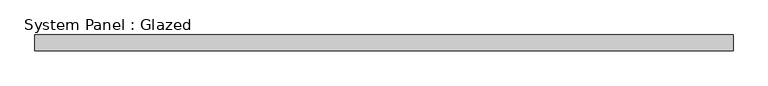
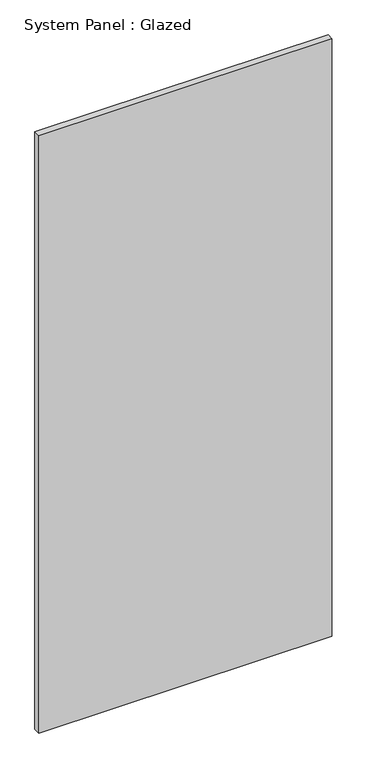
"""IFC4 building model written with IfcOpenShell, lengths in millimetres: plate geometry, System Panel : Glazed."""

import ifcopenshell
import ifcopenshell.guid

model = None  # the IFC model being written
_history = None  # IfcOwnerHistory: only IFC2X3 demands one
_inside = {}  # id of a spatial element -> (the spatial element, [elements in it])
_under = {}  # id of a project, library or spatial element -> (it, [spatial elements below it])
_declared = {}  # id of a project -> (the project, [libraries it declares])
_typed = {}  # id of a type object -> (the type object, [elements of that type])
_made_of = {}  # id of a material, layer set ... -> (it, [elements and type objects made of it])


def new_model(schema):
    """Start an empty IFC model of exactly this schema.

    Asked for "IFC4X3", IfcOpenShell would pick the latest addendum, in which some entities
    have other attributes; the version numbers below select the first issue.
    IFC2X3 requires an IfcOwnerHistory on every rooted entity: one is made here for all.
    """
    global model, _history
    if schema == "IFC4X3":
        model = ifcopenshell.file(schema_version=(4, 3, 0, 0))
    else:
        model = ifcopenshell.file(schema=schema)
    _inside.clear()
    _under.clear()
    _declared.clear()
    _typed.clear()
    _made_of.clear()
    _history = None
    if model.schema == "IFC2X3":
        org = make("IfcOrganization", Name="unknown")
        user = make(
            "IfcPersonAndOrganization",
            ThePerson=make("IfcPerson", FamilyName="unknown"),
            TheOrganization=org,
        )
        app = make(
            "IfcApplication",
            ApplicationDeveloper=org,
            Version="unknown",
            ApplicationFullName="unknown",
            ApplicationIdentifier="unknown",
        )
        _history = make(
            "IfcOwnerHistory",
            OwningUser=user,
            OwningApplication=app,
            ChangeAction="ADDED",
            CreationDate=0,
        )
    return model


def make(cls, **values):
    """One entity of the class cls with the attributes given. An attribute that is None is left unset."""
    return model.create_entity(
        cls, **{name: value for name, value in values.items() if value is not None}
    )


def rooted(cls, **values):
    """An entity with a GlobalId (a new one), such as an element, a storey or a relation."""
    return make(cls, GlobalId=ifcopenshell.guid.new(), OwnerHistory=_history, **values)


def si_unit(unit_type, name, prefix=None):
    """IfcSIUnit, for example si_unit("LENGTHUNIT", "METRE", prefix="MILLI")."""
    return make("IfcSIUnit", UnitType=unit_type, Prefix=prefix, Name=name)


def assignment(units):
    """IfcUnitAssignment: the units of a project."""
    return None if units is None else make("IfcUnitAssignment", Units=units)


def point(xyz):
    """IfcCartesianPoint."""
    return None if xyz is None else make("IfcCartesianPoint", Coordinates=xyz)


def direction(xyz):
    """IfcDirection."""
    return None if xyz is None else make("IfcDirection", DirectionRatios=xyz)


def frame(location, z_axis=None, x_axis=None):
    """IfcAxis2Placement3D, a coordinate frame: its origin and axes. An axis left out is left unset."""
    return make(
        "IfcAxis2Placement3D",
        Location=point(location),
        Axis=direction(z_axis),
        RefDirection=direction(x_axis),
    )


def origin():
    """The frame at (0, 0, 0) with its axes left unset."""
    return frame((0.0, 0.0, 0.0))


def origin_with_axes():
    """The frame at (0, 0, 0) with the z axis (0, 0, 1) and the x axis (1, 0, 0) written out."""
    return frame((0.0, 0.0, 0.0), z_axis=(0.0, 0.0, 1.0), x_axis=(1.0, 0.0, 0.0))


def place(relative_to, where):
    """IfcLocalPlacement: puts the frame where relative to a parent placement (None: the world)."""
    return make(
        "IfcLocalPlacement", PlacementRelTo=relative_to, RelativePlacement=where
    )


def context(
    kind, dimensions, precision=None, world=None, true_north=None, identifier=None
):
    """IfcGeometricRepresentationContext, for example the 3D "Model" context."""
    return make(
        "IfcGeometricRepresentationContext",
        ContextIdentifier=identifier,
        ContextType=kind,
        CoordinateSpaceDimension=dimensions,
        Precision=precision,
        WorldCoordinateSystem=world,
        TrueNorth=true_north,
    )


def project(units=None, contexts=None):
    """IfcProject with its units and contexts."""
    return rooted(
        "IfcProject",
        Name="project",
        RepresentationContexts=contexts,
        UnitsInContext=assignment(units),
    )


def spatial(cls, under=None, at=None, **own):
    """A site, building, storey or space (cls), placed at a placement, below another one or the project."""
    s = rooted(cls, ObjectPlacement=at, **own)
    if under is not None:
        _under.setdefault(under.id(), (under, []))[1].append(s)
    return s


def polyline(points):
    """IfcPolyline through the points."""
    return make("IfcPolyline", Points=[point(p) for p in points])


def outline(outer, holes=None, kind="AREA"):
    """IfcArbitraryClosedProfileDef: a profile drawn as a closed curve; with holes, ...WithVoids."""
    if holes is None:
        return make("IfcArbitraryClosedProfileDef", ProfileType=kind, OuterCurve=outer)
    return make(
        "IfcArbitraryProfileDefWithVoids",
        ProfileType=kind,
        OuterCurve=outer,
        InnerCurves=holes,
    )


def extrude(swept, where, along, depth):
    """IfcExtrudedAreaSolid: the profile swept, set in the frame where, extruded along a direction by depth."""
    return make(
        "IfcExtrudedAreaSolid",
        SweptArea=swept,
        Position=where,
        ExtrudedDirection=direction(along),
        Depth=depth,
    )


def shape(context_of_items, identifier, shape_type, items):
    """IfcShapeRepresentation: the items that make up one representation, for example the "Body"."""
    return make(
        "IfcShapeRepresentation",
        ContextOfItems=context_of_items,
        RepresentationIdentifier=identifier,
        RepresentationType=shape_type,
        Items=items,
    )


def source(mapping_origin, context_of_items, identifier, shape_type, items):
    """IfcRepresentationMap: a shape defined once, which mapped items show again and again."""
    return make(
        "IfcRepresentationMap",
        MappingOrigin=mapping_origin,
        MappedRepresentation=shape(context_of_items, identifier, shape_type, items),
    )


def transform(
    local_origin,
    x_axis=None,
    y_axis=None,
    z_axis=None,
    scale=None,
    scale2=None,
    scale3=None,
    uniform=True,
):
    """IfcCartesianTransformationOperator3D, or its non-uniform kind. x_axis, y_axis, z_axis: its Axis1, 2, 3."""
    if uniform:
        return make(
            "IfcCartesianTransformationOperator3D",
            Axis1=direction(x_axis),
            Axis2=direction(y_axis),
            LocalOrigin=point(local_origin),
            Scale=scale,
            Axis3=direction(z_axis),
        )
    return make(
        "IfcCartesianTransformationOperator3DnonUniform",
        Axis1=direction(x_axis),
        Axis2=direction(y_axis),
        LocalOrigin=point(local_origin),
        Scale=scale,
        Axis3=direction(z_axis),
        Scale2=scale2,
        Scale3=scale3,
    )


def mapped(mapping_source, mapping_target):
    """IfcMappedItem: shows the shape of a source again, moved by a transform."""
    return make(
        "IfcMappedItem", MappingSource=mapping_source, MappingTarget=mapping_target
    )


def made_of(thing, what):
    """Note that an element or type object is made of a material, layer set ...; save() writes the relation."""
    if what is not None:
        _made_of.setdefault(what.id(), (what, []))[1].append(thing)
    return thing


def element(
    cls,
    number,
    at=None,
    inside=None,
    cuts=None,
    type_object=None,
    material=None,
    context=None,
    identifier="Body",
    shape_type=None,
    held_by="IfcProductDefinitionShape",
    body=None,
    shapes=None,
    **own,
):
    """One element of the class cls, such as IfcWall. Its Tag is "e" and its number.

    at: its placement. inside: the storey or other place that contains it. cuts: it is an
    opening in that element (IfcRelVoidsElement). A single representation is given by context,
    identifier, shape_type and body (its items); several are given by shapes. held_by: the class
    of the entity that holds the representations. save() writes the other relations.
    """
    e = rooted(cls, Tag="e%d" % number, ObjectPlacement=at, **own)
    if body is not None:
        shapes = [shape(context, identifier, shape_type, body)]
    if shapes is not None:
        e.Representation = make(held_by, Representations=shapes)
    if inside is not None:
        _inside.setdefault(inside.id(), (inside, []))[1].append(e)
    if cuts is not None:
        rooted(
            "IfcRelVoidsElement", RelatingBuildingElement=cuts, RelatedOpeningElement=e
        )
    if type_object is not None:
        _typed.setdefault(type_object.id(), (type_object, []))[1].append(e)
    return made_of(e, material)


def aggregate(whole, parts):
    """IfcRelAggregates: a whole, such as a stair, and the parts it consists of."""
    return rooted("IfcRelAggregates", RelatingObject=whole, RelatedObjects=parts)


def save(model, path):
    """Write the relations noted so far, then the file.

    IfcRelAggregates (storeys below a building ...), IfcRelContainedInSpatialStructure (elements
    in a storey), IfcRelDefinesByType, IfcRelAssociatesMaterial and IfcRelDeclares: one each for
    every whole, place, type object, material and project.
    """
    for whole, parts in _under.values():
        aggregate(whole, parts)
    for where, things in _inside.values():
        rooted(
            "IfcRelContainedInSpatialStructure",
            RelatedElements=things,
            RelatingStructure=where,
        )
    for kind, things in _typed.values():
        rooted("IfcRelDefinesByType", RelatedObjects=things, RelatingType=kind)
    for what, things in _made_of.values():
        rooted("IfcRelAssociatesMaterial", RelatedObjects=things, RelatingMaterial=what)
    for by, libraries in _declared.values():
        rooted("IfcRelDeclares", RelatingContext=by, RelatedDefinitions=libraries)
    model.write(path)


def system_panel_glazed_fdcf631f(model_context):
    return source(origin(), model_context, "Body", "SweptSolid", [
        extrude(outline(polyline([(548.4875, -49.5), (-548.4875, -49.5), (-548.4875, -24.5), (548.4875, -24.5), (548.4875, -49.5)])), origin_with_axes(), (0.0, 0.0, 1.0), 2363.4),
    ])


if __name__ == "__main__":
    model = new_model("IFC4")
    model_context = context("Model", 3, world=origin())
    ifc_project = project(units=[si_unit("LENGTHUNIT", "METRE", prefix="MILLI")], contexts=[model_context])
    site = spatial("IfcSite", under=ifc_project)
    building = spatial("IfcBuilding", under=site)
    placement = place(None, origin())
    system_panel_glazed_shape = system_panel_glazed_fdcf631f(model_context)
    element("IfcPlate", 1, ObjectType="System Panel : Glazed", at=placement, inside=building, context=model_context, shape_type="MappedRepresentation", body=[
        mapped(system_panel_glazed_shape, transform((0.0, 0.0, 0.0), x_axis=(1.0, 0.0, 0.0), y_axis=(0.0, 1.0, 0.0), z_axis=(0.0, 0.0, 1.0))),
    ])
    save(model, "model.ifc")
